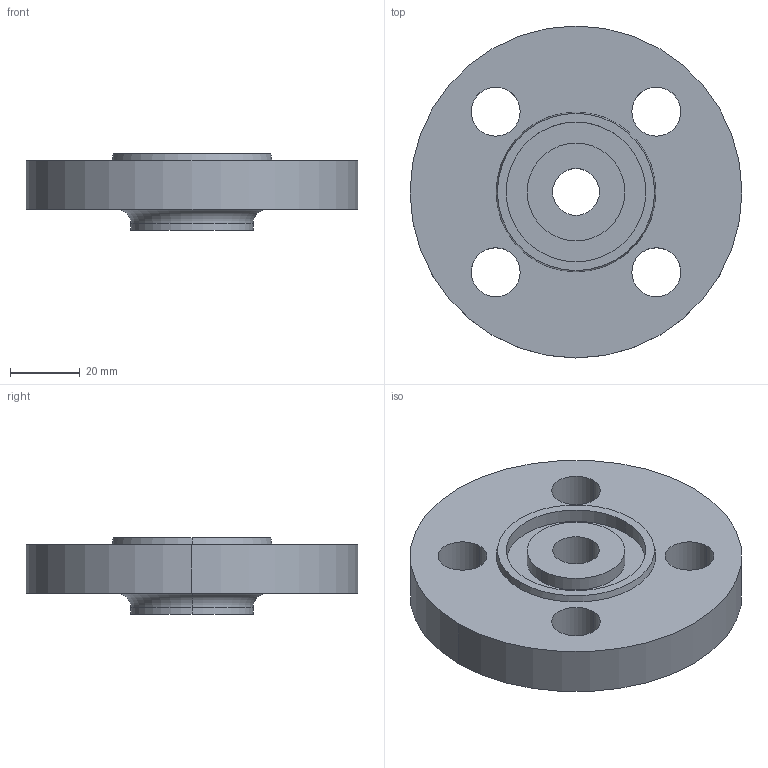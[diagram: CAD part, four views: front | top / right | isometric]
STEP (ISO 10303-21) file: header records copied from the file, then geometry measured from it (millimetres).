
FILE_DESCRIPTION (( 'STEP AP214' ), '1' );
FILE_NAME ('PN40 DN15 Type 13 - Type D Face.STEP', '2018-12-29T14:34:32', ( '' ), ( '' ), 'SwSTEP 2.0', 'SolidWorks 2019', '' );
FILE_SCHEMA (( 'AUTOMOTIVE_DESIGN' ));
Length unit declared in the file: millimetre
Products named in the file (1): PN40 DN15 Type 13 - Type D Face
Bounding box: 95 x 95 x 22 mm (x, y, z)
Volume: 94360 mm3; surface area: 21801.4 mm2
Topology: 1 solids, 1 shells, 28 faces, 64 edges, 42 vertices
Faces by surface type: cylinder 18, plane 6, torus 2, cone 2
Entity records: 870 total; most frequent: DIRECTION 166, CARTESIAN_POINT 135, ORIENTED_EDGE 128, AXIS2_PLACEMENT_3D 73, EDGE_CURVE 64, CIRCLE 44, VERTEX_POINT 42, EDGE_LOOP 42
